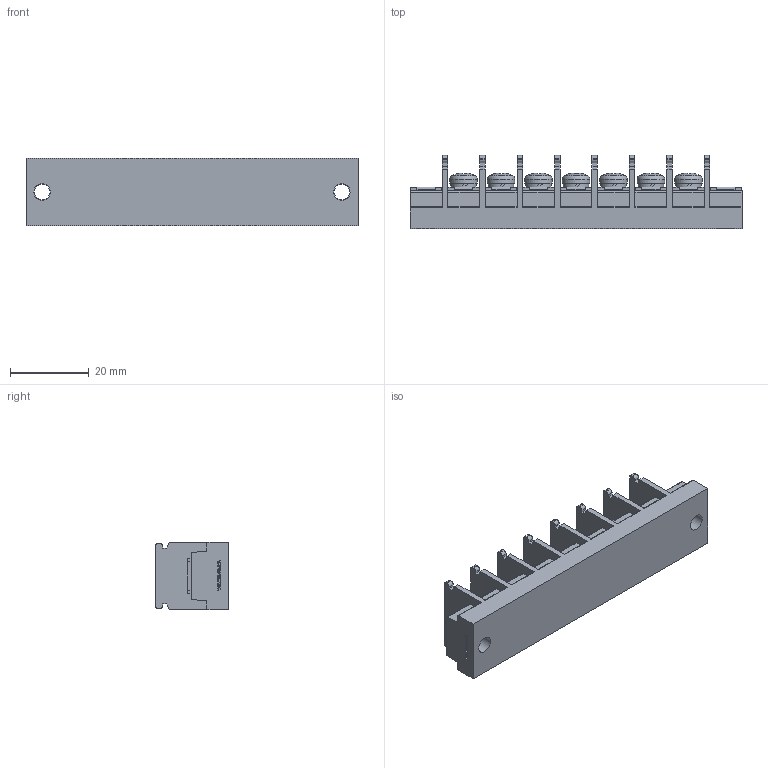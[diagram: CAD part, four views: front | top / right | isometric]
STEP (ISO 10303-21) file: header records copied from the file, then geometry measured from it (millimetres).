
FILE_DESCRIPTION(/* description */ ('Alibre Inc.'),/* implementation_level */ '2;1');
FILE_NAME(/* name */ 'export-06760A85-3F69-4579-BF61-D4BA48964AD7',/* time_stamp */ '2021-02-02T10:32:03+09:00',/* author */ (''),/* organization */ (''),/* preprocessor_version */ 'ST-DEVELOPER v17',/* originating_system */ 'Alibre',/* authorisation */ '');
FILE_SCHEMA (('CONFIG_CONTROL_DESIGN'));
Length unit declared in the file: millimetre
Bounding box: 84.2 x 18.5 x 17 mm (x, y, z)
Volume: 14671.5 mm3; surface area: 9317.1 mm2
Topology: 1 solids, 8 shells, 930 faces, 2549 edges, 1693 vertices
Faces by surface type: plane 652, cylinder 118, bspline 104, cone 35, torus 14, sphere 7
Full cylindrical faces by diameter (mm): 4 x16, 4.2 x2, 6.5 x7, 7 x7
Entity records: 28545 total; most frequent: CARTESIAN_POINT 6232, ORIENTED_EDGE 4946, DIRECTION 3668, EDGE_CURVE 2473, VECTOR 1756, LINE 1756, VERTEX_POINT 1663, AXIS2_PLACEMENT_3D 1285
